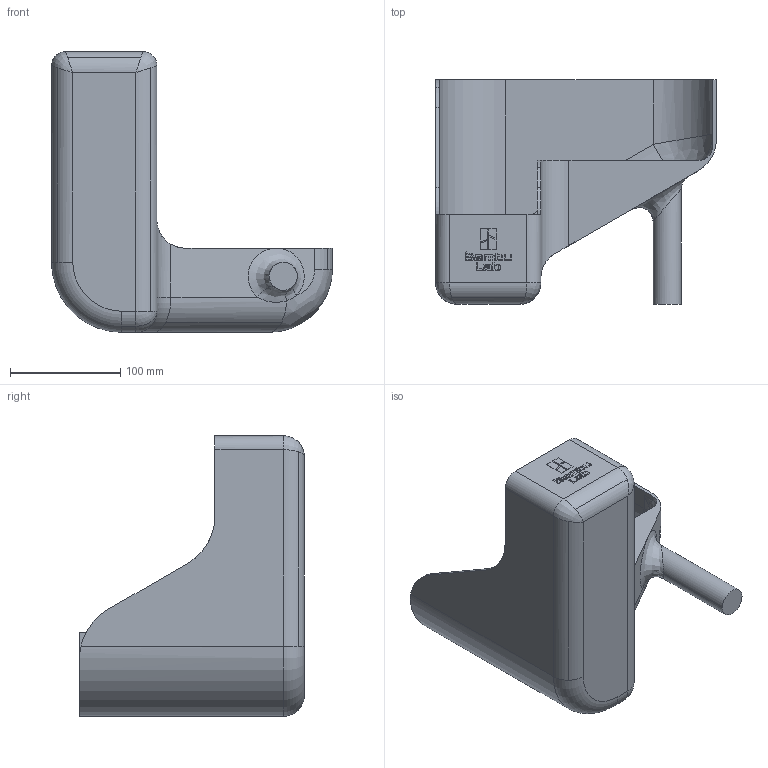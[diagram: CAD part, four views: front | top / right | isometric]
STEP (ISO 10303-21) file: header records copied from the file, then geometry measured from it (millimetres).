
FILE_DESCRIPTION (( 'STEP AP214' ), '1' );
FILE_NAME ('POOPY_SHOE_ms_edit.STEP', '2023-02-10T17:25:53', ( '' ), ( '' ), 'SwSTEP 2.0', 'SolidWorks 2021', '' );
FILE_SCHEMA (( 'AUTOMOTIVE_DESIGN' ));
Length unit declared in the file: millimetre
Products named in the file (1): POOPY_SHOE_ms_edit
Bounding box: 254 x 203.2 x 254 mm (x, y, z)
Volume: 507833 mm3; surface area: 268827.9 mm2
Topology: 1 solids, 1 shells, 256 faces, 677 edges, 436 vertices
Faces by surface type: bspline 124, plane 75, cylinder 49, sphere 4, torus 4
Entity records: 10310 total; most frequent: CARTESIAN_POINT 4876, ORIENTED_EDGE 1344, EDGE_CURVE 672, DIRECTION 641, VERTEX_POINT 436, B_SPLINE_CURVE_WITH_KNOTS 354, EDGE_LOOP 274, FACE_OUTER_BOUND 256
